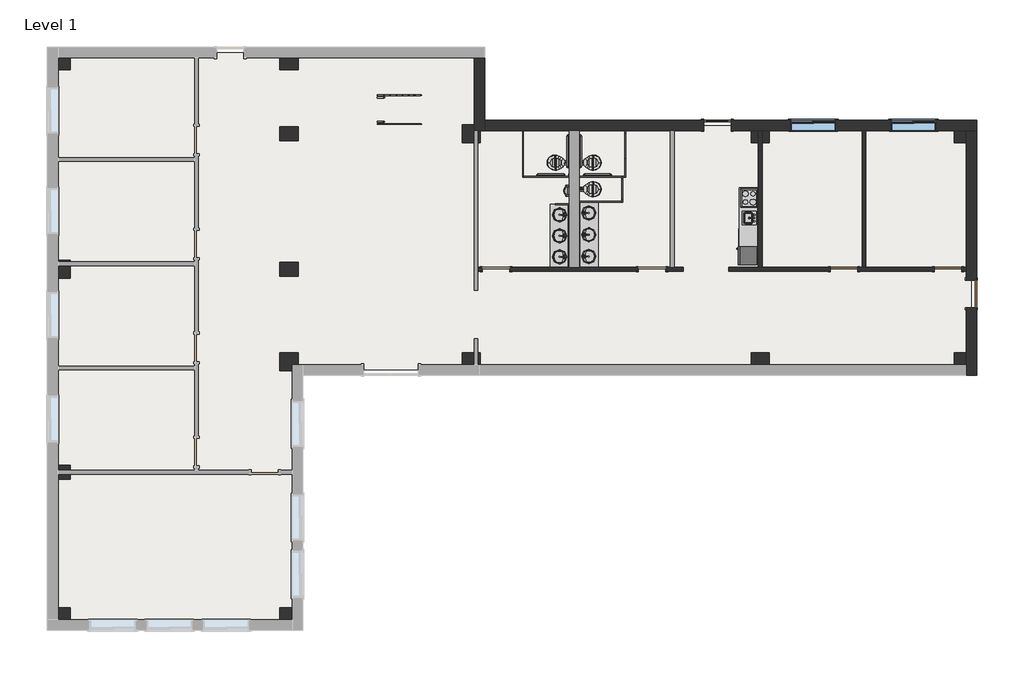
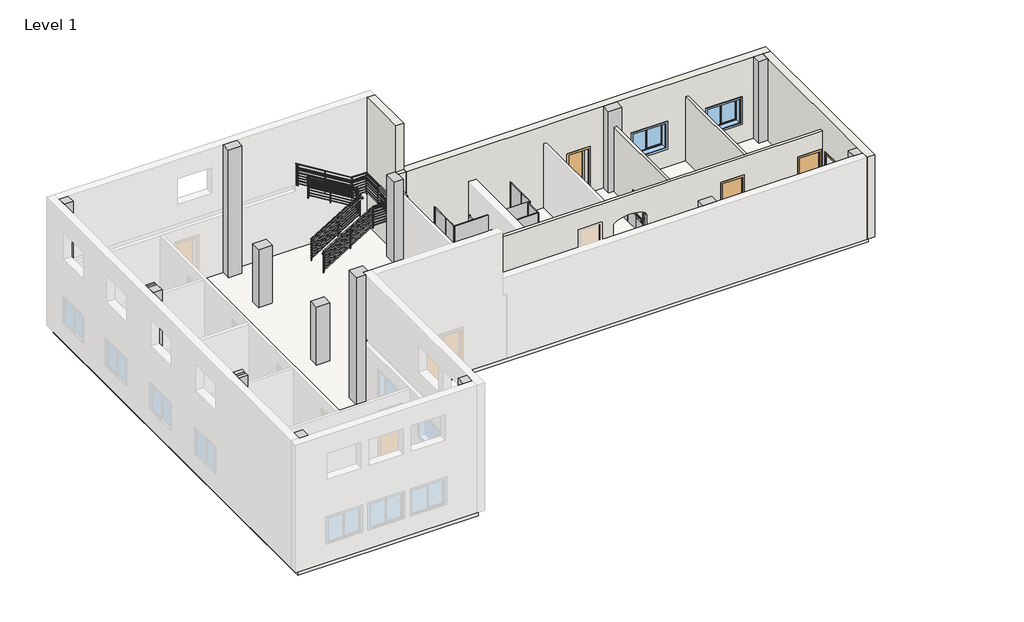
# One storey, part 2 of 2: 15 columns, 13 proxies, 11 flow terminals, 6 walls, 4 doors, 3 furniture elements, 2 railings, 2 windows, 1 slab.
"""IFC4 building model written with IfcOpenShell, lengths in millimetres."""

from ifc_helpers import new_model, si_unit, point, frame, origin, origin_with_axes, place, context, project, spatial, polyline, ellipse_curve, trimmed, outline, extrude, faceted_brep, transform, mapped, element, save
from ifc_brep_helpers import plane_surface, extruded_surface, advanced_brep
from components import specialty_equipment_fe47f8b8, specialty_equipment_a66543ee, specialty_equipment_0732ba0f, proxy_75c98dfb, proxy_14d97774, proxy_deb97b80, proxy_a6faaae8, proxy_45b28599, grab_bar_3d_grab_bar_3d_00f4341b, grab_bar_3d_grab_bar_3d_a3ed3e83, kitchenette_medium_kitchenette_medium_844211aa, proxy_c523a7b7, door_cc5399a4, door_88503111, door_14e9a3b2, flow_terminal_871c2e40, flow_terminal_5184717d, flow_terminal_4f17df5f, flow_terminal_f7b7a87d, urinal_wall_3d_urinal_wall_3d_b67806af, furniture_c6510c7c, furniture_b8c66f15, furniture_0f6f437d, guardrail_pipe_ca991ecf, guardrail_pipe_215c56c1, window_8313e728

model = new_model("IFC4")

# Units and contexts
model_context = context("Model", 3, world=origin())
ifc_project = project(units=[si_unit("LENGTHUNIT", "METRE", prefix="MILLI")], contexts=[model_context])

# Site, building, storey
site = spatial("IfcSite", under=ifc_project)
building = spatial("IfcBuilding", under=site)
storey = spatial("IfcBuildingStorey", under=building, Name="Level 1", Elevation=0.0)

# Proxies
placement = place(None, origin())
specialty_equipment_shape = specialty_equipment_fe47f8b8(model_context)
element("IfcBuildingElementProxy", 1, Name="Dispencer-Toilet Paper-2D : Dispencer-Toilet Paper-2D", ObjectType="Dispencer-Toilet Paper-2D : Dispencer-Toilet Paper-2D", at=placement, inside=storey, context=model_context, shape_type="MappedRepresentation", body=[
    mapped(specialty_equipment_shape, transform((3856.5733448, 6606.3605424, 0.0), x_axis=(0.0, -1.0, 0.0), y_axis=(1.0, 0.0, 0.0), z_axis=(0.0, 0.0, 1.0))),
])
specialty_equipment_2_shape = specialty_equipment_a66543ee(model_context)
element("IfcBuildingElementProxy", 2, Name="Dispencer-Toilet Paper-2D : Dispencer-Toilet Paper-2D", ObjectType="Dispencer-Toilet Paper-2D : Dispencer-Toilet Paper-2D", at=placement, inside=storey, context=model_context, shape_type="MappedRepresentation", body=[
    mapped(specialty_equipment_2_shape, transform((3513.6733448, 6606.3605424, 0.0), x_axis=(0.0, -1.0, 0.0), y_axis=(1.0, 0.0, 0.0), z_axis=(0.0, 0.0, 1.0))),
])
element("IfcBuildingElementProxy", 3, Name="Dispencer-Toilet Paper-2D : Dispencer-Toilet Paper-2D", ObjectType="Dispencer-Toilet Paper-2D : Dispencer-Toilet Paper-2D", at=placement, inside=storey, context=model_context, shape_type="MappedRepresentation", body=[
    mapped(specialty_equipment_2_shape, transform((3856.5733448, 6580.9605424, 0.0), x_axis=(0.0, 1.0, 0.0), y_axis=(-1.0, 0.0, 0.0), z_axis=(0.0, 0.0, 1.0))),
])
specialty_equipment_3_shape = specialty_equipment_0732ba0f(model_context)
element("IfcBuildingElementProxy", 4, Name="Urinal Screen-3D w Urinal : 36\" O.C.", ObjectType="Urinal Screen-3D w Urinal : 36\" O.C.", at=placement, inside=storey, context=model_context, shape_type="MappedRepresentation", body=[
    mapped(specialty_equipment_3_shape, transform((3685.1233448, 5666.5605424, 0.0), x_axis=(0.0, 1.0, 0.0), y_axis=(-1.0, 0.0, 0.0), z_axis=(0.0, 0.0, 1.0))),
])
proxy_shape = proxy_75c98dfb(model_context)
element("IfcBuildingElementProxy", 5, Name="Toilet Stall-3D w Toilet : 32\" x 56\" Clear", ObjectType="Toilet Stall-3D w Toilet : 32\" x 56\" Clear", at=placement, inside=storey, context=model_context, shape_type="MappedRepresentation", body=[
    mapped(proxy_shape, transform((3685.1233448, 5769.6573886, 0.0), x_axis=(0.0, 1.0, 0.0), y_axis=(-1.0, 0.0, 0.0), z_axis=(0.0, 0.0, 1.0))),
])
proxy_2_shape = proxy_14d97774(model_context)
element("IfcBuildingElementProxy", 6, Name="Toilet Stall-Accessible-Front-3D w Toilet : 60\" x 60\" Clear", ObjectType="Toilet Stall-Accessible-Front-3D w Toilet : 60\" x 60\" Clear", at=placement, inside=storey, context=model_context, shape_type="MappedRepresentation", body=[
    mapped(proxy_2_shape, transform((3685.1233448, 6658.6573886, 0.0), x_axis=(0.0, 1.0, 0.0), y_axis=(-1.0, 0.0, 0.0), z_axis=(0.0, 0.0, 1.0))),
])
proxy_3_shape = proxy_deb97b80(model_context)
element("IfcBuildingElementProxy", 7, Name="Toilet Stall-Accessible-Front-3D w Toilet : 60\" x 60\" Clear", ObjectType="Toilet Stall-Accessible-Front-3D w Toilet : 60\" x 60\" Clear", at=placement, inside=storey, context=model_context, shape_type="MappedRepresentation", body=[
    mapped(proxy_3_shape, transform((3685.1233448, 6658.6573886, 0.0), x_axis=(0.0, 1.0, 0.0), y_axis=(-1.0, 0.0, 0.0), z_axis=(0.0, 0.0, 1.0))),
])
proxy_4_shape = proxy_a6faaae8(model_context)
element("IfcBuildingElementProxy", 8, Name="Cook Top-4 Unit2 : 22\" x 20\"", ObjectType="Cook Top-4 Unit2 : 22\" x 20\"", at=placement, inside=storey, context=model_context, shape_type="MappedRepresentation", body=[
    mapped(proxy_4_shape, transform((9542.9983448, 5882.4605424, 0.0), x_axis=(0.0, -1.0, 0.0), y_axis=(1.0, 0.0, 0.0), z_axis=(0.0, 0.0, 1.0))),
])
proxy_5_shape = proxy_45b28599(model_context)
element("IfcBuildingElementProxy", 9, Name="Dishwasher : 24\" x 24\" x 34\"", ObjectType="Dishwasher : 24\" x 24\" x 34\"", at=placement, inside=storey, context=model_context, shape_type="MappedRepresentation", body=[
    mapped(proxy_5_shape, transform((9251.14878, 4931.2780109, 0.0), x_axis=(0.0, -1.0, 0.0), y_axis=(1.0, 0.0, 0.0), z_axis=(0.0, 0.0, 1.0))),
])
grab_bar_3d_grab_bar_3d_shape = grab_bar_3d_grab_bar_3d_00f4341b(model_context)
element("IfcBuildingElementProxy", 10, Name="Grab Bar-3D : Grab Bar-3D", ObjectType="Grab Bar-3D : Grab Bar-3D", at=placement, inside=storey, context=model_context, shape_type="MappedRepresentation", body=[
    mapped(grab_bar_3d_grab_bar_3d_shape, transform((3513.6733448, 6606.3605424, 0.0), x_axis=(1.0, 0.0, 0.0), y_axis=(0.0, 1.0, 0.0), z_axis=(0.0, 0.0, 1.0))),
])
grab_bar_3d_grab_bar_3d_2_shape = grab_bar_3d_grab_bar_3d_a3ed3e83(model_context)
element("IfcBuildingElementProxy", 11, Name="Grab Bar-3D : Grab Bar-3D", ObjectType="Grab Bar-3D : Grab Bar-3D", at=placement, inside=storey, context=model_context, shape_type="MappedRepresentation", body=[
    mapped(grab_bar_3d_grab_bar_3d_2_shape, transform((3856.5733448, 6606.3605424, 0.0), x_axis=(-1.0, 0.0, 0.0), y_axis=(0.0, -1.0, 0.0), z_axis=(0.0, 0.0, 1.0))),
])
kitchenette_medium_kitchenette_medium_shape = kitchenette_medium_kitchenette_medium_844211aa(model_context)
element("IfcBuildingElementProxy", 12, Name="Kitchenette - Medium : Kitchenette - Medium", ObjectType="Kitchenette - Medium : Kitchenette - Medium", at=placement, inside=storey, context=model_context, shape_type="MappedRepresentation", body=[
    mapped(kitchenette_medium_kitchenette_medium_shape, transform((9847.7983448, 5558.2982474, 0.0), x_axis=(0.0, -1.0, 0.0), y_axis=(1.0, 0.0, 0.0), z_axis=(0.0, 0.0, 1.0))),
])
proxy_6_shape = proxy_c523a7b7(model_context)
element("IfcBuildingElementProxy", 13, Name="Refrigerator : 24\" x 25\" LH", ObjectType="Refrigerator : 24\" x 25\" LH", at=placement, inside=storey, context=model_context, shape_type="MappedRepresentation", body=[
    mapped(proxy_6_shape, transform((9497.3493733, 3945.7105424, 0.0), x_axis=(0.0, -1.0, 0.0), y_axis=(1.0, 0.0, 0.0), z_axis=(0.0, 0.0, 1.0))),
])

# Columns
element("IfcColumn", 14, ObjectType="Rectangular Column : 18\" x 24\"", at=placement, inside=storey, context=model_context, shape_type="SweptSolid", body=[
    extrude(outline(polyline([(-3066.2769576, 6100.0), (-3066.2769576, 0.0), (-3232.9644576, 0.0), (-3232.9644576, 2755.2), (-3356.7894576, 2755.2), (-3356.7894576, 0.0), (-3523.4769576, 0.0), (-3523.4769576, 6100.0), (-3356.7894576, 6100.0), (-3356.7894576, 3060.0), (-3232.9644576, 3060.0), (-3232.9644576, 6100.0), (-3066.2769576, 6100.0)])), frame((-13583.7016552, 0.0, 0.0), z_axis=(1.0, 0.0, 0.0), x_axis=(0.0, 1.0, 0.0)), (0.0, 0.0, 1.0), 406.4),
])
element("IfcColumn", 15, ObjectType="Rectangular Column : 18\" x 24\"", at=placement, inside=storey, context=model_context, shape_type="SweptSolid", body=[
    extrude(outline(polyline([(-5550.9516552, 3725.0480424), (-5550.9516552, 3267.8480424), (-6160.5516552, 3267.8480424), (-6160.5516552, 3725.0480424), (-5550.9516552, 3725.0480424)])), origin_with_axes(), (0.0, 0.0, 1.0), 2782.4),
])
element("IfcColumn", 16, ObjectType="Rectangular Column : 18\" x 24\"", at=placement, inside=storey, context=model_context, shape_type="SweptSolid", body=[
    extrude(outline(polyline([(-5550.9516552, 8257.3605424), (-5550.9516552, 7800.1605424), (-6160.5516552, 7800.1605424), (-6160.5516552, 8257.3605424), (-5550.9516552, 8257.3605424)])), origin_with_axes(), (0.0, 0.0, 1.0), 2782.4),
])
element("IfcColumn", 17, ObjectType="Rectangular Column : 24\" x 24\"", at=placement, inside=storey, context=model_context, shape_type="Brep", body=[
    faceted_brep([(-13583.7016552, 10162.3605424, 6100.0), (-13177.3016552, 10162.3605424, 6100.0), (-13177.3016552, 10568.7605424, 6100.0), (-13583.7016552, 10568.7605424, 6100.0), (-13177.3016552, 10162.3605424, 0.0), (-13583.7016552, 10162.3605424, 0.0), (-13583.7016552, 10568.7605424, 0.0), (-13177.3016552, 10568.7605424, 0.0), (-13583.7016552, 10568.7605424, 3060.0), (-13583.7016552, 10568.7605424, 2755.2)], [[[0, 1, 2, 3]], [[4, 5, 6, 7]], [[4, 1, 0, 5]], [[1, 4, 7, 2]], [[5, 0, 3, 8, 9, 6]], [[3, 2, 7, 6, 9, 8]]]),
])
element("IfcColumn", 18, ObjectType="Rectangular Column : 24\" x 24\"", at=placement, inside=storey, context=model_context, shape_type="SweptSolid", body=[
    extrude(outline(polyline([(3729.8105424, 6100.0), (3801.2480424, 6100.0), (3801.2480424, 0.0), (3743.3042924, 0.0), (3743.3042924, 2755.2), (3619.4792924, 2755.2), (3619.4792924, 0.0), (3191.6480424, 0.0), (3191.6480424, 6100.0), (3605.9855424, 6100.0), (3605.9855424, 3060.0), (3729.8105424, 3060.0), (3729.8105424, 6100.0)])), frame((-13583.7016552, 0.0, 0.0), z_axis=(1.0, 0.0, 0.0), x_axis=(0.0, 1.0, 0.0)), (0.0, 0.0, 1.0), 406.4),
])
element("IfcColumn", 19, ObjectType="Rectangular Column : 24\" x 24\"", at=placement, inside=storey, context=model_context, shape_type="Brep", body=[
    faceted_brep([(-13177.3016552, -8233.5894576, 6100.0), (-13177.3016552, -7827.1894576, 6100.0), (-13583.7016552, -7827.1894576, 6100.0), (-13583.7016552, -8233.5894576, 6100.0), (-13177.3016552, -7827.1894576, 0.0), (-13177.3016552, -8233.5894576, 0.0), (-13583.7016552, -8233.5894576, 0.0), (-13583.7016552, -7827.1894576, 0.0), (-13583.7016552, -8233.5894576, 3060.0), (-13583.7016552, -8233.5894576, 2755.2)], [[[0, 1, 2, 3]], [[4, 5, 6, 7]], [[1, 4, 7, 2]], [[4, 1, 0, 5]], [[5, 0, 3, 8, 9, 6]], [[3, 2, 7, 6, 9, 8]]]),
])
element("IfcColumn", 20, ObjectType="Rectangular Column : 24\" x 24\"", at=placement, inside=storey, context=model_context, shape_type="Brep", body=[
    faceted_brep([(-5754.1516552, -7827.1894576, 6100.0), (-6160.5516552, -7827.1894576, 6100.0), (-6160.5516552, -8233.5894576, 6100.0), (-5754.1516552, -8233.5894576, 6100.0), (-6160.5516552, -7827.1894576, 0.0), (-5754.1516552, -7827.1894576, 0.0), (-5754.1516552, -8233.5894576, 0.0), (-6160.5516552, -8233.5894576, 0.0), (-5754.1516552, -8233.5894576, 3060.0), (-5754.1516552, -8233.5894576, 2755.2)], [[[0, 1, 2, 3]], [[4, 5, 6, 7]], [[4, 1, 0, 5]], [[1, 4, 7, 2]], [[5, 0, 3, 8, 9, 6]], [[3, 2, 7, 6, 9, 8]]]),
])
element("IfcColumn", 21, ObjectType="Rectangular Column : 24\" x 24\"", at=placement, inside=storey, context=model_context, shape_type="Brep", body=[
    faceted_brep([(-5550.9516552, 707.2105424, 6100.0), (-6160.5516552, 707.2105424, 6100.0), (-6160.5516552, 97.6105424, 6100.0), (-5754.1516552, 97.6105424, 6100.0), (-5754.1516552, 300.8105424, 6100.0), (-5550.9516552, 300.8105424, 6100.0), (-6160.5516552, 97.6105424, 0.0), (-6160.5516552, 707.2105424, 0.0), (-5550.9516552, 707.2105424, 0.0), (-5550.9516552, 300.8105424, 0.0), (-5754.1516552, 300.8105424, 0.0), (-5754.1516552, 97.6105424, 0.0), (-5754.1516552, 300.8105424, 2755.2), (-5754.1516552, 300.8105424, 3060.0)], [[[0, 1, 2, 3, 4, 5]], [[6, 7, 8, 9, 10, 11]], [[1, 0, 8, 7]], [[2, 1, 7, 6]], [[2, 6, 11, 3]], [[8, 0, 5, 9]], [[10, 12, 13, 4, 3, 11]], [[4, 13, 12, 10, 9, 5]]]),
])
element("IfcColumn", 22, ObjectType="Rectangular Column : 24\" x 24\"", at=placement, inside=storey, context=model_context, shape_type="SweptSolid", body=[
    extrude(outline(polyline([(3900.0, 341.8483448), (3900.0, -64.5516552), (0.0, -64.5516552), (0.0, 341.8483448), (3060.0, 341.8483448), (3900.0, 341.8483448)])), frame((0.0, 300.8105424, 0.0), z_axis=(0.0, 1.0, 0.0), x_axis=(0.0, 0.0, 1.0)), (0.0, 0.0, 1.0), 406.4),
    extrude(outline(polyline([(465.6733448, 707.2105424), (545.0483448, 707.2105424), (545.0483448, 300.8105424), (518.0608448, 300.8105424), (465.6733448, 300.8105424), (465.6733448, 707.2105424)])), origin_with_axes(), (0.0, 0.0, 1.0), 3060.0),
])
element("IfcColumn", 23, ObjectType="Rectangular Column : 24\" x 24\"", at=placement, inside=storey, context=model_context, shape_type="Brep", body=[
    faceted_brep([(-64.5516552, 8333.5605424, 3900.0), (-64.5516552, 7723.9605424, 3900.0), (341.8483448, 7723.9605424, 3900.0), (341.8483448, 8130.3605424, 3900.0), (341.8483448, 8306.5730424, 3900.0), (341.8483448, 8333.5605424, 3900.0), (-64.5516552, 7723.9605424, 0.0), (-64.5516552, 8333.5605424, 0.0), (341.8483448, 8333.5605424, 0.0), (341.8483448, 8130.3605424, 0.0), (341.8483448, 7723.9605424, 0.0), (341.8483448, 7723.9605424, 3060.0), (341.8483448, 8130.3605424, 3060.0)], [[[0, 1, 2, 3, 4, 5]], [[6, 7, 8, 9, 10]], [[7, 0, 5, 8]], [[1, 0, 7, 6]], [[1, 6, 10, 11, 2]], [[10, 9, 12, 11]], [[3, 2, 11, 12]], [[5, 4, 3, 12, 9, 8]]]),
    faceted_brep([(545.0483448, 7723.9605424, 3060.0), (545.0483448, 7723.9605424, 0.0), (545.0483448, 8130.3605424, 0.0), (545.0483448, 8130.3605424, 3060.0), (465.6733448, 8130.3605424, 0.0), (465.6733448, 7723.9605424, 0.0), (465.6733448, 7723.9605424, 3060.0), (465.6733448, 8130.3605424, 3060.0)], [[[0, 1, 2, 3]], [[4, 5, 6, 7]], [[6, 0, 3, 7]], [[5, 1, 0, 6]], [[2, 4, 7, 3]], [[1, 5, 4, 2]]]),
])
element("IfcColumn", 24, ObjectType="Rectangular Column : 24\" x 24\"", at=placement, inside=storey, context=model_context, shape_type="SweptSolid", body=[
    extrude(outline(polyline([(3900.0, 10214.5108448), (3900.0, 9604.9108448), (0.0, 9604.9108448), (0.0, 9847.7983448), (3060.0, 9847.7983448), (3060.0, 9971.6233448), (0.0, 9971.6233448), (0.0, 10214.5108448), (3900.0, 10214.5108448)])), frame((0.0, 7723.9605424, 0.0), z_axis=(0.0, 1.0, 0.0), x_axis=(0.0, 0.0, 1.0)), (0.0, 0.0, 1.0), 406.4),
])
element("IfcColumn", 25, ObjectType="Rectangular Column : 24\" x 24\"", at=placement, inside=storey, context=model_context, shape_type="SweptSolid", body=[
    extrude(outline(polyline([(16394.6483448, 7723.9605424), (16394.6483448, 8130.3605424), (16801.0483448, 8130.3605424), (16801.0483448, 7723.9605424), (16394.6483448, 7723.9605424)])), origin_with_axes(), (0.0, 0.0, 1.0), 3900.0),
])
element("IfcColumn", 26, ObjectType="Rectangular Column : 24\" x 24\"", at=placement, inside=storey, context=model_context, shape_type="SweptSolid", body=[
    extrude(outline(polyline([(16394.6483448, 707.2105424), (16801.0483448, 707.2105424), (16801.0483448, 300.8105424), (16394.6483448, 300.8105424), (16394.6483448, 707.2105424)])), origin_with_axes(), (0.0, 0.0, 1.0), 3900.0),
])
element("IfcColumn", 27, ObjectType="Rectangular Column : 24\" x 24\"", at=placement, inside=storey, context=model_context, shape_type="SweptSolid", body=[
    extrude(outline(polyline([(9604.9108448, 707.2105424), (10214.5108448, 707.2105424), (10214.5108448, 300.8105424), (9604.9108448, 300.8105424), (9604.9108448, 707.2105424)])), origin_with_axes(), (0.0, 0.0, 1.0), 3900.0),
])
element("IfcColumn", 28, ObjectType="Rectangular Column : 24\" x 24\"", at=placement, inside=storey, context=model_context, shape_type="SweptSolid", body=[
    extrude(outline(polyline([(-5550.9516552, 10162.3605424), (-6160.5516552, 10162.3605424), (-6160.5516552, 10568.7605424), (-5550.9516552, 10568.7605424), (-5550.9516552, 10162.3605424)])), origin_with_axes(), (0.0, 0.0, 1.0), 6100.0),
])

# Doors
door_shape = door_cc5399a4(model_context)
element("IfcDoor", 29, ObjectType="Single-Flush : 36\" x 84\"", at=placement, inside=storey, context=model_context, shape_type="MappedRepresentation", body=[
    mapped(door_shape, transform((16977.2608448, 2672.5355424, 0.0), x_axis=(0.0, 1.0, 0.0), y_axis=(-1.0, 0.0, 0.0), z_axis=(0.0, 0.0, 1.0))),
])
door_2_shape = door_88503111(model_context)
element("IfcDoor", 30, ObjectType="Single-Flush : 36\" x 84\"", at=placement, inside=storey, context=model_context, shape_type="MappedRepresentation", body=[
    mapped(door_2_shape, transform((16191.4483448, 3496.4480424, 0.0), x_axis=(1.0, 0.0, 0.0), y_axis=(0.0, 1.0, 0.0), z_axis=(0.0, 0.0, 1.0))),
])
element("IfcDoor", 31, ObjectType="Single-Flush : 36\" x 84\"", at=placement, inside=storey, context=model_context, shape_type="MappedRepresentation", body=[
    mapped(door_2_shape, transform((12714.8233448, 3496.4480424, 0.0), x_axis=(1.0, 0.0, 0.0), y_axis=(0.0, 1.0, 0.0), z_axis=(0.0, 0.0, 1.0))),
])
door_3_shape = door_14e9a3b2(model_context)
element("IfcDoor", 32, ObjectType="Single-Glass 1 : 36\" x 84\"", at=placement, inside=storey, context=model_context, shape_type="MappedRepresentation", body=[
    mapped(door_3_shape, transform((8476.1983448, 8306.5730424, 0.0), x_axis=(1.0, 0.0, 0.0), y_axis=(0.0, 1.0, 0.0), z_axis=(0.0, 0.0, 1.0))),
])

# Flow terminals
flow_terminal_shape = flow_terminal_871c2e40(model_context)
element("IfcFlowTerminal", 33, ObjectType="Sink Kitchen-Island : 18\" x 18\"", at=placement, inside=storey, context=model_context, shape_type="MappedRepresentation", body=[
    mapped(flow_terminal_shape, transform((9540.6529437, 5225.049783, -14.4), x_axis=(0.0, -1.0, 0.0), y_axis=(1.0, 0.0, 0.0), z_axis=(0.0, 0.0, 1.0))),
])
flow_terminal_2_shape = flow_terminal_5184717d(model_context)
element("IfcFlowTerminal", 34, ObjectType="Sink Vanity-Round : 19\" x 19\"", at=placement, inside=storey, context=model_context, shape_type="MappedRepresentation", body=[
    mapped(flow_terminal_2_shape, transform((4259.2410633, 5282.0421352, 76.2), x_axis=(0.0, 1.0, 0.0), y_axis=(-1.0, 0.0, 0.0), z_axis=(0.0, 0.0, 1.0))),
])
element("IfcFlowTerminal", 35, ObjectType="Sink Vanity-Round : 19\" x 19\"", at=placement, inside=storey, context=model_context, shape_type="MappedRepresentation", body=[
    mapped(flow_terminal_2_shape, transform((4259.2410633, 3825.7754686, 76.2), x_axis=(0.0, 1.0, 0.0), y_axis=(-1.0, 0.0, 0.0), z_axis=(0.0, 0.0, 1.0))),
])
element("IfcFlowTerminal", 36, ObjectType="Sink Vanity-Round : 19\" x 19\"", at=placement, inside=storey, context=model_context, shape_type="MappedRepresentation", body=[
    mapped(flow_terminal_2_shape, transform((4259.2410633, 4553.9088019, 76.2), x_axis=(0.0, 1.0, 0.0), y_axis=(-1.0, 0.0, 0.0), z_axis=(0.0, 0.0, 1.0))),
])
element("IfcFlowTerminal", 37, ObjectType="Sink Vanity-Round : 19\" x 19\"", at=placement, inside=storey, context=model_context, shape_type="MappedRepresentation", body=[
    mapped(flow_terminal_2_shape, transform((3111.0056263, 4006.3789497, 76.2), x_axis=(0.0, -1.0, 0.0), y_axis=(1.0, 0.0, 0.0), z_axis=(0.0, 0.0, 1.0))),
])
element("IfcFlowTerminal", 38, ObjectType="Sink Vanity-Round : 19\" x 19\"", at=placement, inside=storey, context=model_context, shape_type="MappedRepresentation", body=[
    mapped(flow_terminal_2_shape, transform((3111.0056263, 5411.8456163, 76.2), x_axis=(0.0, -1.0, 0.0), y_axis=(1.0, 0.0, 0.0), z_axis=(0.0, 0.0, 1.0))),
])
element("IfcFlowTerminal", 39, ObjectType="Sink Vanity-Round : 19\" x 19\"", at=placement, inside=storey, context=model_context, shape_type="MappedRepresentation", body=[
    mapped(flow_terminal_2_shape, transform((3111.0056263, 4709.112283, 76.2), x_axis=(0.0, -1.0, 0.0), y_axis=(1.0, 0.0, 0.0), z_axis=(0.0, 0.0, 1.0))),
])
flow_terminal_3_shape = flow_terminal_4f17df5f(model_context)
element("IfcFlowTerminal", 40, ObjectType="Toilet-Commercial-Wall-3D1 : 15\" Seat Height 2", at=placement, inside=storey, context=model_context, shape_type="MappedRepresentation", body=[
    mapped(flow_terminal_3_shape, transform((3685.1233448, 6658.6573886, 0.0), x_axis=(0.0, 1.0, 0.0), y_axis=(-1.0, 0.0, 0.0), z_axis=(0.0, 0.0, 1.0))),
])
flow_terminal_4_shape = flow_terminal_f7b7a87d(model_context)
element("IfcFlowTerminal", 41, ObjectType="Toilet-Commercial-Wall-3D1 : 15\" Seat Height 2", at=placement, inside=storey, context=model_context, shape_type="MappedRepresentation", body=[
    mapped(flow_terminal_4_shape, transform((3685.1233448, 6658.6573886, 0.0), x_axis=(0.0, 1.0, 0.0), y_axis=(-1.0, 0.0, 0.0), z_axis=(0.0, 0.0, 1.0))),
])
element("IfcFlowTerminal", 42, ObjectType="Toilet-Commercial-Wall-3D1 : 15\" Seat Height 2", at=placement, inside=storey, context=model_context, shape_type="MappedRepresentation", body=[
    mapped(flow_terminal_4_shape, transform((3685.1233448, 5769.6573886, 0.0), x_axis=(0.0, 1.0, 0.0), y_axis=(-1.0, 0.0, 0.0), z_axis=(0.0, 0.0, 1.0))),
])
urinal_wall_3d_urinal_wall_3d_shape = urinal_wall_3d_urinal_wall_3d_b67806af(model_context)
element("IfcFlowTerminal", 43, ObjectType="Urinal-Wall-3D : Urinal-Wall-3D", at=placement, inside=storey, context=model_context, shape_type="MappedRepresentation", body=[
    mapped(urinal_wall_3d_urinal_wall_3d_shape, transform((3685.1233448, 6232.8351423, 0.0), x_axis=(0.0, 1.0, 0.0), y_axis=(-1.0, 0.0, 0.0), z_axis=(0.0, 0.0, 1.0))),
])

# Furniture
furniture_shape = furniture_c6510c7c(model_context)
element("IfcFurniture", 44, ObjectType="Counter Top w Sink Hole : 24\" Depth", at=placement, inside=storey, context=model_context, shape_type="MappedRepresentation", body=[
    mapped(furniture_shape, transform((9847.7983448, 5024.8982474, -14.4), x_axis=(0.0, -1.0, 0.0), y_axis=(1.0, 0.0, 0.0), z_axis=(0.0, 0.0, 1.0))),
])
furniture_2_shape = furniture_b8c66f15(model_context)
element("IfcFurniture", 45, ObjectType="Counter Top w Sinks-3D : 96\"", at=placement, inside=storey, context=model_context, shape_type="MappedRepresentation", body=[
    mapped(furniture_2_shape, transform((3685.1233448, 4626.6502386, 0.0), x_axis=(0.0, -1.0, 0.0), y_axis=(1.0, 0.0, 0.0), z_axis=(0.0, 0.0, 1.0))),
])
furniture_3_shape = furniture_0f6f437d(model_context)
element("IfcFurniture", 46, ObjectType="Counter Top w Sinks-3D : 96\"", at=placement, inside=storey, context=model_context, shape_type="MappedRepresentation", body=[
    mapped(furniture_3_shape, transform((3685.1233448, 4674.4708462, 0.0), x_axis=(0.0, 1.0, 0.0), y_axis=(-1.0, 0.0, 0.0), z_axis=(0.0, 0.0, 1.0))),
])

# Railings
guardrail_pipe_shape = guardrail_pipe_ca991ecf(model_context)
element("IfcRailing", 47, ObjectType="Guardrail - Pipe", at=placement, inside=storey, context=model_context, shape_type="MappedRepresentation", body=[
    mapped(guardrail_pipe_shape, transform((0.0, 0.0, 0.0), x_axis=(1.0, 0.0, 0.0), y_axis=(0.0, 1.0, 0.0), z_axis=(0.0, 0.0, 1.0))),
])
guardrail_pipe_2_shape = guardrail_pipe_215c56c1(model_context)
element("IfcRailing", 48, ObjectType="Guardrail - Pipe", at=placement, inside=storey, context=model_context, shape_type="MappedRepresentation", body=[
    mapped(guardrail_pipe_2_shape, transform((0.0, 0.0, 0.0), x_axis=(1.0, 0.0, 0.0), y_axis=(0.0, 1.0, 0.0), z_axis=(0.0, 0.0, 1.0))),
])

# Slab
element("IfcSlab", 49, ObjectType="Generic - 12\"", at=placement, inside=storey, context=model_context, shape_type="SweptSolid", body=[
    extrude(outline(polyline([(506.9483448, 10733.8605424), (506.9483448, 8295.4605424), (16966.1483448, 8295.4605424), (16966.1483448, 135.7105424), (-5589.0516552, 135.7105424), (-5589.0516552, -8398.6894576), (-13748.8016552, -8398.6894576), (-13748.8016552, 10733.8605424), (506.9483448, 10733.8605424)])), frame((0.0, 0.0, -304.8), z_axis=(0.0, 0.0, 1.0), x_axis=(1.0, 0.0, 0.0)), (0.0, 0.0, 1.0), 304.8),
])

# Walls
element("IfcWall", 50, ObjectType="Exterior - Brick on Mtl. Stud", at=placement, inside=storey, context=model_context, shape_type="Brep", body=[
    faceted_brep([(341.8483448, 10568.7605424, 0.0), (341.8483448, 8333.5605424, 0.0), (341.8483448, 8130.3605424, 0.0), (341.8483448, 8130.3605424, 3060.0), (341.8483448, 8130.3605424, 3900.0), (341.8483448, 8306.5730424, 3900.0), (341.8483448, 8306.5730424, 6100.0), (341.8483448, 10568.7605424, 6100.0), (694.2733448, 10568.7605424, 0.0), (694.2733448, 10568.7605424, 6100.0), (694.2733448, 8306.5730424, 6100.0), (694.2733448, 8306.5730424, 3900.0), (694.2733448, 8130.3605424, 3900.0), (694.2733448, 8130.3605424, 3060.0), (694.2733448, 8130.3605424, 0.0), (694.2733448, 8482.7855424, 0.0), (545.0483448, 8130.3605424, 0.0), (465.6733448, 8130.3605424, 0.0)], [[[0, 1, 2, 3, 4, 5, 6, 7]], [[8, 9, 10, 11, 12, 13, 14, 15]], [[2, 1, 0, 8, 15, 14, 16, 17]], [[7, 6, 10, 9]], [[6, 5, 11, 10]], [[11, 5, 4, 12]], [[2, 17, 16, 14, 13, 12, 4, 3]], [[0, 7, 9, 8]]]),
])
element("IfcWall", 51, ObjectType="Exterior - Brick on Mtl. Stud", at=placement, inside=storey, context=model_context, shape_type="Brep", body=[
    faceted_brep([(8933.3983448, 8130.3605424, 2133.6), (8933.3983448, 8130.3605424, 0.0), (9604.9108448, 8130.3605424, 0.0), (9847.7983448, 8130.3605424, 0.0), (9971.6233448, 8130.3605424, 0.0), (10214.5108448, 8130.3605424, 0.0), (13324.4233448, 8130.3605424, 0.0), (13448.2483448, 8130.3605424, 0.0), (16394.6483448, 8130.3605424, 0.0), (16801.0483448, 8130.3605424, 0.0), (17153.4733448, 8130.3605424, 0.0), (17153.4733448, 8130.3605424, 3900.0), (16801.0483448, 8130.3605424, 3900.0), (16394.6483448, 8130.3605424, 3900.0), (10214.5108448, 8130.3605424, 3900.0), (9604.9108448, 8130.3605424, 3900.0), (694.2733448, 8130.3605424, 3900.0), (694.2733448, 8130.3605424, 0.0), (3513.6733448, 8130.3605424, 0.0), (3856.5733448, 8130.3605424, 0.0), (6904.5733448, 8130.3605424, 0.0), (7028.3983448, 8130.3605424, 0.0), (8018.9983448, 8130.3605424, 0.0), (8018.9983448, 8130.3605424, 2133.6), (12444.9483448, 8130.3605424, 2133.6), (12444.9483448, 8130.3605424, 914.4), (10920.9483448, 8130.3605424, 914.4), (10920.9483448, 8130.3605424, 2133.6), (15804.0983448, 8130.3605424, 2133.6), (15804.0983448, 8130.3605424, 914.4), (14280.0983448, 8130.3605424, 914.4), (14280.0983448, 8130.3605424, 2133.6), (17153.4733448, 8482.7855424, 0.0), (8933.3983448, 8482.7855424, 0.0), (8933.3983448, 8482.7855424, 2133.6), (8018.9983448, 8482.7855424, 2133.6), (8018.9983448, 8482.7855424, 0.0), (694.2733448, 8482.7855424, 0.0), (694.2733448, 8482.7855424, 3900.0), (17153.4733448, 8482.7855424, 3900.0), (12444.9483448, 8482.7855424, 2133.6), (10920.9483448, 8482.7855424, 2133.6), (10920.9483448, 8482.7855424, 914.4), (12444.9483448, 8482.7855424, 914.4), (15804.0983448, 8482.7855424, 2133.6), (14280.0983448, 8482.7855424, 2133.6), (14280.0983448, 8482.7855424, 914.4), (15804.0983448, 8482.7855424, 914.4), (694.2733448, 8306.5730424, 3900.0)], [[[0, 1, 2, 3, 4, 5, 6, 7, 8, 9, 10, 11, 12, 13, 14, 15, 16, 17, 18, 19, 20, 21, 22, 23], [24, 25, 26, 27], [28, 29, 30, 31]], [[32, 33, 34, 35, 36, 37, 38, 39], [40, 41, 42, 43], [44, 45, 46, 47]], [[10, 9, 8, 7, 6, 5, 4, 3, 2, 1, 33, 32]], [[22, 21, 20, 19, 18, 17, 37, 36]], [[16, 15, 14, 13, 12, 11, 39, 38, 48]], [[34, 33, 1, 0]], [[35, 34, 0, 23]], [[36, 35, 23, 22]], [[25, 24, 40, 43]], [[26, 25, 43, 42]], [[27, 26, 42, 41]], [[24, 27, 41, 40]], [[29, 28, 44, 47]], [[30, 29, 47, 46]], [[31, 30, 46, 45]], [[28, 31, 45, 44]], [[11, 10, 32, 39]], [[16, 48, 38, 37, 17]]]),
])
element("IfcWall", 52, ObjectType="Exterior - Brick on Mtl. Stud", at=placement, inside=storey, context=model_context, shape_type="Brep", body=[
    faceted_brep([(16801.0483448, 8130.3605424, 0.0), (16801.0483448, 7723.9605424, 0.0), (16801.0483448, 3558.3605424, 0.0), (16801.0483448, 3434.5355424, 0.0), (16801.0483448, 3129.7355424, 0.0), (16801.0483448, 3129.7355424, 2133.6), (16801.0483448, 2215.3355424, 2133.6), (16801.0483448, 2215.3355424, 0.0), (16801.0483448, 707.2105424, 0.0), (16801.0483448, 300.8105424, 0.0), (16801.0483448, -51.6144576, 0.0), (16801.0483448, -51.6144576, 3900.0), (16801.0483448, 300.8105424, 3900.0), (16801.0483448, 707.2105424, 3900.0), (16801.0483448, 7723.9605424, 3900.0), (16801.0483448, 8130.3605424, 3900.0), (17153.4733448, 3129.7355424, 2133.6), (17153.4733448, 3129.7355424, 0.0), (17153.4733448, 8130.3605424, 0.0), (17153.4733448, 8130.3605424, 3900.0), (17153.4733448, -51.6144576, 3900.0), (17153.4733448, -51.6144576, 0.0), (17153.4733448, 2215.3355424, 0.0), (17153.4733448, 2215.3355424, 2133.6)], [[[0, 1, 2, 3, 4, 5, 6, 7, 8, 9, 10, 11, 12, 13, 14, 15]], [[16, 17, 18, 19, 20, 21, 22, 23]], [[22, 21, 10, 9, 8, 7]], [[18, 17, 4, 3, 2, 1, 0]], [[15, 14, 13, 12, 11, 20, 19]], [[5, 4, 17, 16]], [[6, 5, 16, 23]], [[7, 6, 23, 22]], [[11, 10, 21, 20]], [[0, 15, 19, 18]]]),
])
element("IfcWall", 53, ObjectType="Interior - 4 7/8\" Partition (1-hr)", at=placement, inside=storey, context=model_context, shape_type="AdvancedBrep", body=[
    advanced_brep(
    [(8857.1983448, 3434.5355424, 1828.8), (8857.1983448, 3434.5355424, 0.0), (12257.6233448, 3434.5355424, 0.0), (12257.6233448, 3434.5355424, 2133.6), (13172.0233448, 3434.5355424, 2133.6), (13172.0233448, 3434.5355424, 0.0), (15734.2483448, 3434.5355424, 0.0), (15734.2483448, 3434.5355424, 2133.6), (16648.6483448, 3434.5355424, 2133.6), (16648.6483448, 3434.5355424, 0.0), (16801.0483448, 3434.5355424, 0.0), (16801.0483448, 3434.5355424, 3060.0), (465.6733448, 3434.5355424, 3060.0), (465.6733448, 3434.5355424, 0.0), (618.0733448, 3434.5355424, 0.0), (618.0733448, 3434.5355424, 2133.6), (1532.4733448, 3434.5355424, 2133.6), (1532.4733448, 3434.5355424, 0.0), (5837.7733448, 3434.5355424, 0.0), (5837.7733448, 3434.5355424, 2133.6), (6752.1733448, 3434.5355424, 2133.6), (6752.1733448, 3434.5355424, 0.0), (7333.1983448, 3434.5355424, 0.0), (7333.1983448, 3434.5355424, 1828.8), (12257.6233448, 3558.3605424, 0.0), (9971.6233448, 3558.3605424, 0.0), (9847.7983448, 3558.3605424, 0.0), (8857.1983448, 3558.3605424, 0.0), (8857.1983448, 3558.3605424, 1828.8), (7333.1983448, 3558.3605424, 1828.8), (7333.1983448, 3558.3605424, 0.0), (7028.3983448, 3558.3605424, 0.0), (6904.5733448, 3558.3605424, 0.0), (6752.1733448, 3558.3605424, 0.0), (6752.1733448, 3558.3605424, 2133.6), (5837.7733448, 3558.3605424, 2133.6), (5837.7733448, 3558.3605424, 0.0), (3856.5733448, 3558.3605424, 0.0), (3513.6733448, 3558.3605424, 0.0), (1532.4733448, 3558.3605424, 0.0), (1532.4733448, 3558.3605424, 2133.6), (618.0733448, 3558.3605424, 2133.6), (618.0733448, 3558.3605424, 0.0), (465.6733448, 3558.3605424, 0.0), (465.6733448, 3558.3605424, 3060.0), (6904.5733448, 3558.3605424, 3060.0), (7028.3983448, 3558.3605424, 3060.0), (9847.7983448, 3558.3605424, 3060.0), (9971.6233448, 3558.3605424, 3060.0), (13324.4233448, 3558.3605424, 3060.0), (13448.2483448, 3558.3605424, 3060.0), (16801.0483448, 3558.3605424, 3060.0), (16801.0483448, 3558.3605424, 0.0), (16648.6483448, 3558.3605424, 0.0), (16648.6483448, 3558.3605424, 2133.6), (15734.2483448, 3558.3605424, 2133.6), (15734.2483448, 3558.3605424, 0.0), (13448.2483448, 3558.3605424, 0.0), (13324.4233448, 3558.3605424, 0.0), (13172.0233448, 3558.3605424, 0.0), (13172.0233448, 3558.3605424, 2133.6), (12257.6233448, 3558.3605424, 2133.6)],
    [
        (0, 1),
        (1, 2),
        (2, 3),
        (3, 4),
        (4, 5),
        (5, 6),
        (6, 7),
        (7, 8),
        (8, 9),
        (9, 10),
        (10, 11),
        (11, 12),
        (12, 13),
        (13, 14),
        (14, 15),
        (15, 16),
        (16, 17),
        (17, 18),
        (18, 19),
        (19, 20),
        (20, 21),
        (21, 22),
        (22, 23),
        (23, 0, ellipse_curve(frame((8095.1983448, 3434.5355424, 1828.8), z_axis=(0.0, 1.0, 0.0), x_axis=(1.0, 0.0, 0.0)), 762.0, 304.8)),
        (24, 25),
        (25, 26),
        (26, 27),
        (27, 28),
        (28, 29, ellipse_curve(frame((8095.1983448, 3558.3605424, 1828.8), z_axis=(0.0, -1.0, 0.0), x_axis=(1.0, 0.0, 0.0)), 762.0, 304.8)),
        (29, 30),
        (30, 31),
        (31, 32),
        (32, 33),
        (33, 34),
        (34, 35),
        (35, 36),
        (36, 37),
        (37, 38),
        (38, 39),
        (39, 40),
        (40, 41),
        (41, 42),
        (42, 43),
        (43, 44),
        (44, 45),
        (45, 46),
        (46, 47),
        (47, 48),
        (48, 49),
        (49, 50),
        (50, 51),
        (51, 52),
        (52, 53),
        (53, 54),
        (54, 55),
        (55, 56),
        (56, 57),
        (57, 58),
        (58, 59),
        (59, 60),
        (60, 61),
        (61, 24),
        (9, 53),
        (52, 10),
        (5, 59),
        (56, 6),
        (42, 14),
        (13, 43),
        (36, 18),
        (17, 39),
        (21, 33),
        (30, 22),
        (1, 27),
        (24, 2),
        (11, 51),
        (44, 12),
        (8, 54),
        (7, 55),
        (4, 60),
        (3, 61),
        (20, 34),
        (19, 35),
        (41, 15),
        (40, 16),
        (28, 0),
        (23, 29),
    ],
    [
        plane_surface(frame((2521.2785775, 3434.5355424, 0.0), z_axis=(0.0, -1.0, 0.0), x_axis=(1.0, 0.0, 0.0))),
        plane_surface(frame((2521.2785775, 3558.3605424, 0.0), z_axis=(0.0, 1.0, 0.0), x_axis=(-1.0, 0.0, 0.0))),
        plane_surface(frame((403.7608448, 3434.5355424, 0.0), z_axis=(0.0, 0.0, -1.0), x_axis=(0.0, 1.0, 0.0))),
        plane_surface(frame((16977.2608448, 3434.5355424, 3060.0), z_axis=(0.0, 0.0, 1.0), x_axis=(0.0, 1.0, 0.0))),
        plane_surface(frame((465.6733448, 8306.5730424, 0.0), z_axis=(-1.0, 0.0, 0.0), x_axis=(0.0, 1.0, 0.0))),
        plane_surface(frame((16648.6483448, 3558.3605424, 0.0), z_axis=(-1.0, 0.0, 0.0), x_axis=(0.0, -1.0, 0.0))),
        plane_surface(frame((16648.6483448, 3558.3605424, 2133.6), z_axis=(0.0, 0.0, -1.0), x_axis=(0.0, -1.0, 0.0))),
        plane_surface(frame((15734.2483448, 3558.3605424, 2133.6), z_axis=(1.0, 0.0, 0.0), x_axis=(0.0, -1.0, 0.0))),
        plane_surface(frame((13172.0233448, 3558.3605424, 0.0), z_axis=(-1.0, 0.0, 0.0), x_axis=(0.0, -1.0, 0.0))),
        plane_surface(frame((13172.0233448, 3558.3605424, 2133.6), z_axis=(0.0, 0.0, -1.0), x_axis=(0.0, -1.0, 0.0))),
        plane_surface(frame((12257.6233448, 3558.3605424, 2133.6), z_axis=(1.0, 0.0, 0.0), x_axis=(0.0, -1.0, 0.0))),
        plane_surface(frame((6752.1733448, 3558.3605424, 0.0), z_axis=(-1.0, 0.0, 0.0), x_axis=(0.0, -1.0, 0.0))),
        plane_surface(frame((6752.1733448, 3558.3605424, 2133.6), z_axis=(0.0, 0.0, -1.0), x_axis=(0.0, -1.0, 0.0))),
        plane_surface(frame((5837.7733448, 3558.3605424, 2133.6), z_axis=(1.0, 0.0, 0.0), x_axis=(0.0, -1.0, 0.0))),
        plane_surface(frame((618.0733448, 3434.5355424, 0.0), z_axis=(1.0, 0.0, 0.0), x_axis=(0.0, 1.0, 0.0))),
        plane_surface(frame((618.0733448, 3434.5355424, 2133.6), z_axis=(0.0, 0.0, -1.0), x_axis=(0.0, 1.0, 0.0))),
        plane_surface(frame((1532.4733448, 3434.5355424, 2133.6), z_axis=(-1.0, 0.0, 0.0), x_axis=(0.0, 1.0, 0.0))),
        extruded_surface(trimmed(ellipse_curve(frame((8095.1983448, 3310.7105424, 1828.8), z_axis=(0.0, -1.0, 0.0), x_axis=(1.0, 0.0, 0.0)), 762.0, 304.8), [point((8857.1983448, 3310.7105424, 1828.8))], [point((7333.1983448, 3310.7105424, 1828.8))], True, "CARTESIAN"), (0.0, 123.82499999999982, 0.0), 123.82499999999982),
        plane_surface(frame((7333.1983448, 3558.3605424, 1828.8), z_axis=(1.0, 0.0, 0.0), x_axis=(0.0, -1.0, 0.0))),
        plane_surface(frame((8857.1983448, 3558.3605424, 0.0), z_axis=(-1.0, 0.0, 0.0), x_axis=(0.0, -1.0, 0.0))),
        plane_surface(frame((16801.0483448, 7181.0355424, 0.0), z_axis=(1.0, 0.0, 0.0), x_axis=(0.0, -1.0, 0.0))),
    ],
    [
        (0, [[1, 2, 3, 4, 5, 6, 7, 8, 9, 10, 11, 12, 13, 14, 15, 16, 17, 18, 19, 20, 21, 22, 23, 24]]),
        (1, [[25, 26, 27, 28, 29, 30, 31, 32, 33, 34, 35, 36, 37, 38, 39, 40, 41, 42, 43, 44, 45, 46, 47, 48, 49, 50, 51, 52, 53, 54, 55, 56, 57, 58, 59, 60, 61, 62]]),
        (2, [[-10, 63, -53, 64]]),
        (2, [[-6, 65, -59, -58, -57, 66]]),
        (2, [[-43, 67, -14, 68]]),
        (2, [[-39, -38, -37, 69, -18, 70]]),
        (2, [[-22, 71, -33, -32, -31, 72]]),
        (2, [[-2, 73, -27, -26, -25, 74]]),
        (3, [[-12, 75, -51, -50, -49, -48, -47, -46, -45, 76]]),
        (4, [[-13, -76, -44, -68]]),
        (5, [[-54, -63, -9, 77]]),
        (6, [[-55, -77, -8, 78]]),
        (7, [[-56, -78, -7, -66]]),
        (8, [[-60, -65, -5, 79]]),
        (9, [[-61, -79, -4, 80]]),
        (10, [[-62, -80, -3, -74]]),
        (11, [[-34, -71, -21, 81]]),
        (12, [[-35, -81, -20, 82]]),
        (13, [[-36, -82, -19, -69]]),
        (14, [[-15, -67, -42, 83]]),
        (15, [[-16, -83, -41, 84]]),
        (16, [[-17, -84, -40, -70]]),
        (17, [[-29, 85, -24, 86]]),
        (18, [[-30, -86, -23, -72]]),
        (19, [[-28, -73, -1, -85]]),
        (20, [[-11, -64, -52, -75]]),
    ],
),
])
element("IfcWall", 54, ObjectType="Interior - 4 7/8\" Partition (1-hr)", at=placement, inside=storey, context=model_context, shape_type="Brep", body=[
    faceted_brep([(9847.7983448, 8130.3605424, 0.0), (9847.7983448, 7723.9605424, 0.0), (9847.7983448, 3558.3605424, 0.0), (9847.7983448, 3558.3605424, 3060.0), (9847.7983448, 7723.9605424, 3060.0), (9847.7983448, 8130.3605424, 3060.0), (9971.6233448, 8130.3605424, 0.0), (9971.6233448, 8130.3605424, 3060.0), (9971.6233448, 7723.9605424, 3060.0), (9971.6233448, 3558.3605424, 3060.0), (9971.6233448, 3558.3605424, 0.0), (9971.6233448, 7723.9605424, 0.0)], [[[0, 1, 2, 3, 4, 5]], [[6, 7, 8, 9, 10, 11]], [[2, 1, 0, 6, 11, 10]], [[5, 4, 3, 9, 8, 7]], [[3, 2, 10, 9]], [[0, 5, 7, 6]]]),
])
element("IfcWall", 55, ObjectType="Interior - 4 7/8\" Partition (1-hr)", at=placement, inside=storey, context=model_context, shape_type="SweptSolid", body=[
    extrude(outline(polyline([(13324.4233448, 3558.3605424), (13324.4233448, 8130.3605424), (13448.2483448, 8130.3605424), (13448.2483448, 3558.3605424), (13324.4233448, 3558.3605424)])), origin_with_axes(), (0.0, 0.0, 1.0), 3060.0),
])

# Windows
window_shape = window_8313e728(model_context)
element("IfcWindow", 56, ObjectType="Slider with Trim : 60\" x 48\"", at=placement, inside=storey, context=model_context, shape_type="MappedRepresentation", body=[
    mapped(window_shape, transform((11682.9483448, 8306.5730424, 0.0), x_axis=(1.0, 0.0, 0.0), y_axis=(0.0, 1.0, 0.0), z_axis=(0.0, 0.0, 1.0))),
])
element("IfcWindow", 57, ObjectType="Slider with Trim : 60\" x 48\"", at=placement, inside=storey, context=model_context, shape_type="MappedRepresentation", body=[
    mapped(window_shape, transform((15042.0983448, 8306.5730424, 0.0), x_axis=(1.0, 0.0, 0.0), y_axis=(0.0, 1.0, 0.0), z_axis=(0.0, 0.0, 1.0))),
])

save(model, "model.ifc")
